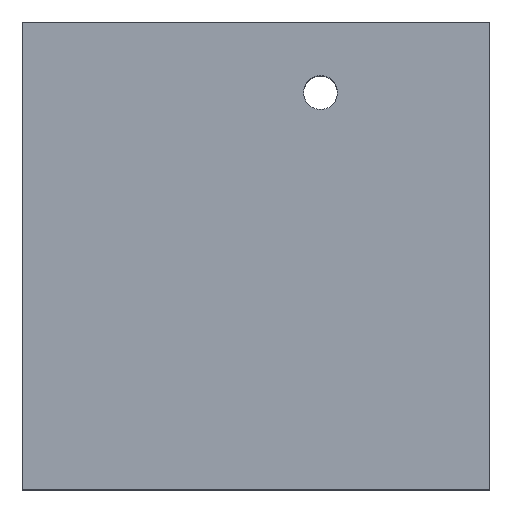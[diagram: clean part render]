
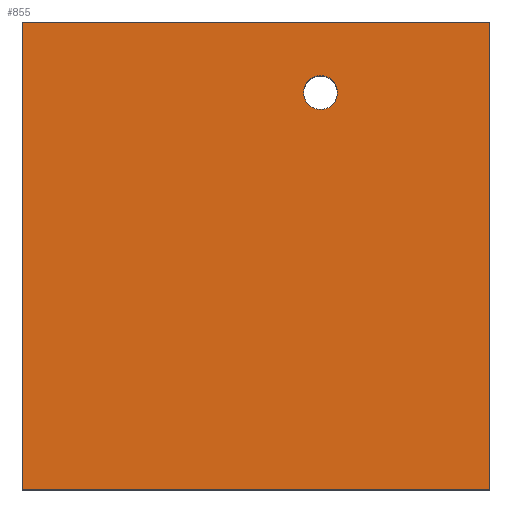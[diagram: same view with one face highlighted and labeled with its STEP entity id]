
A CAD part, top view. The second image highlights one B-rep face of the part: STEP entity #855.
In plain terms, the highlighted planar face has unit normal (0, 0, 1).
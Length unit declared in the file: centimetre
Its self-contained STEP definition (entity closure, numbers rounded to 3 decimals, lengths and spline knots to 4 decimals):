
#158 = CARTESIAN_POINT ( 'NONE',  ( 0., 1000., 1000. ) ) ;
#179 = LINE ( 'NONE', #1389, #320 ) ;
#184 = EDGE_CURVE ( 'NONE', #511, #635, #873, .T. ) ;
#198 = PLANE ( 'NONE',  #287 ) ;
#250 = CARTESIAN_POINT ( 'NONE',  ( 1000., 1000., 1000. ) ) ;
#275 = CARTESIAN_POINT ( 'NONE',  ( 1000., 1000., 1000. ) ) ;
#287 = AXIS2_PLACEMENT_3D ( 'NONE', #1427, #355, #754 ) ;
#305 = VECTOR ( 'NONE', #1668, 100. ) ;
#320 = VECTOR ( 'NONE', #711, 100. ) ;
#346 = CARTESIAN_POINT ( 'NONE',  ( 601.7064, 848.9825, 1000. ) ) ;
#355 = DIRECTION ( 'NONE',  ( 0., 0., 1. ) ) ;
#411 = CARTESIAN_POINT ( 'NONE',  ( 0., 0., 1000. ) ) ;
#459 = CIRCLE ( 'NONE', #1756, 36.448 ) ;
#511 = VERTEX_POINT ( 'NONE', #275 ) ;
#525 = ORIENTED_EDGE ( 'NONE', *, *, #593, .T. ) ;
#542 = CARTESIAN_POINT ( 'NONE',  ( 1000., 0., 1000. ) ) ;
#593 = EDGE_CURVE ( 'NONE', #1654, #1749, #1347, .T. ) ;
#613 = CARTESIAN_POINT ( 'NONE',  ( 0., 1000., 1000. ) ) ;
#635 = VERTEX_POINT ( 'NONE', #158 ) ;
#663 = CARTESIAN_POINT ( 'NONE',  ( 638.1544, 848.9825, 1000. ) ) ;
#671 = ORIENTED_EDGE ( 'NONE', *, *, #685, .T. ) ;
#681 = DIRECTION ( 'NONE',  ( 0., 1., 0. ) ) ;
#685 = EDGE_CURVE ( 'NONE', #635, #1654, #179, .T. ) ;
#711 = DIRECTION ( 'NONE',  ( 0., -1., 0. ) ) ;
#754 = DIRECTION ( 'NONE',  ( 1., 0., 0. ) ) ;
#806 = CARTESIAN_POINT ( 'NONE',  ( 674.6024, 848.9825, 1000. ) ) ;
#855 = ADVANCED_FACE ( 'NONE', ( #872, #1700 ), #198, .T. ) ;
#863 = EDGE_CURVE ( 'NONE', #1098, #1153, #459, .T. ) ;
#871 = ORIENTED_EDGE ( 'NONE', *, *, #1665, .T. ) ;
#872 = FACE_BOUND ( 'NONE', #1014, .T. ) ;
#873 = LINE ( 'NONE', #613, #305 ) ;
#896 = AXIS2_PLACEMENT_3D ( 'NONE', #663, #1211, #1221 ) ;
#970 = DIRECTION ( 'NONE',  ( 1., 0., 0. ) ) ;
#1014 = EDGE_LOOP ( 'NONE', ( #1506, #1325 ) ) ;
#1037 = DIRECTION ( 'NONE',  ( 0., 0., -1. ) ) ;
#1041 = CIRCLE ( 'NONE', #896, 36.448 ) ;
#1064 = EDGE_LOOP ( 'NONE', ( #671, #525, #871, #1714 ) ) ;
#1088 = VECTOR ( 'NONE', #970, 100. ) ;
#1098 = VERTEX_POINT ( 'NONE', #806 ) ;
#1107 = EDGE_CURVE ( 'NONE', #1153, #1098, #1041, .T. ) ;
#1153 = VERTEX_POINT ( 'NONE', #346 ) ;
#1211 = DIRECTION ( 'NONE',  ( 0., 0., -1. ) ) ;
#1221 = DIRECTION ( 'NONE',  ( -1., 0., 0. ) ) ;
#1308 = CARTESIAN_POINT ( 'NONE',  ( 638.1544, 848.9825, 1000. ) ) ;
#1325 = ORIENTED_EDGE ( 'NONE', *, *, #863, .T. ) ;
#1327 = CARTESIAN_POINT ( 'NONE',  ( 0., 0., 1000. ) ) ;
#1347 = LINE ( 'NONE', #411, #1088 ) ;
#1389 = CARTESIAN_POINT ( 'NONE',  ( 0., 1000., 1000. ) ) ;
#1427 = CARTESIAN_POINT ( 'NONE',  ( 0., 0., 1000. ) ) ;
#1462 = LINE ( 'NONE', #250, #1566 ) ;
#1506 = ORIENTED_EDGE ( 'NONE', *, *, #1107, .T. ) ;
#1549 = DIRECTION ( 'NONE',  ( -1., 0., 0. ) ) ;
#1566 = VECTOR ( 'NONE', #681, 100. ) ;
#1654 = VERTEX_POINT ( 'NONE', #1327 ) ;
#1665 = EDGE_CURVE ( 'NONE', #1749, #511, #1462, .T. ) ;
#1668 = DIRECTION ( 'NONE',  ( -1., 0., 0. ) ) ;
#1700 = FACE_OUTER_BOUND ( 'NONE', #1064, .T. ) ;
#1714 = ORIENTED_EDGE ( 'NONE', *, *, #184, .T. ) ;
#1749 = VERTEX_POINT ( 'NONE', #542 ) ;
#1756 = AXIS2_PLACEMENT_3D ( 'NONE', #1308, #1037, #1549 ) ;
